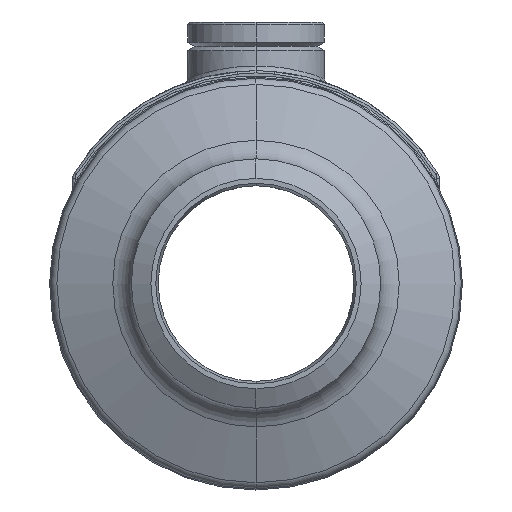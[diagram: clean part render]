
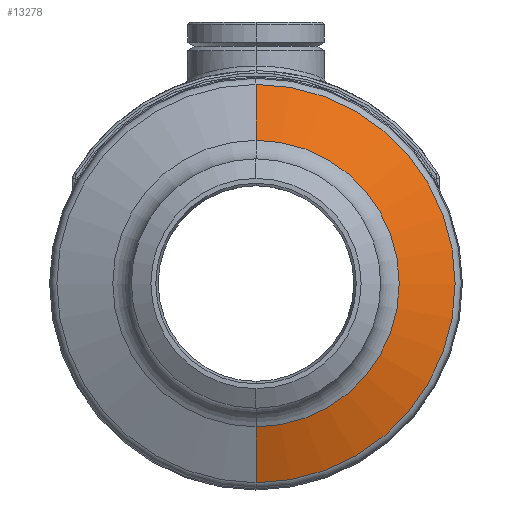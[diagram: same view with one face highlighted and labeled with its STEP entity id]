
A CAD part, left-side view. The second image highlights one B-rep face of the part: STEP entity #13278.
In plain terms, the highlighted conical face has half-angle 68.499 degrees and reference radius 35.017 mm.
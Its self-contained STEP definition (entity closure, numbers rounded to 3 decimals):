
#3808=CARTESIAN_POINT('',(-32.999,0.,0.));
#3809=DIRECTION('',(1.,0.,0.));
#3810=DIRECTION('',(0.,0.,1.));
#3811=AXIS2_PLACEMENT_3D('',#3808,#3809,#3810);
#3813=CARTESIAN_POINT('',(-37.503,0.,0.));
#3814=DIRECTION('',(-1.,0.,0.));
#3815=DIRECTION('',(0.,0.,-1.));
#3816=AXIS2_PLACEMENT_3D('',#3813,#3814,#3815);
#3823=DIRECTION('',(0.367,0.,0.93));
#3824=VECTOR('',#3823,12.287);
#3825=CARTESIAN_POINT('',(-37.503,0.,29.301));
#3826=LINE('',#3825,#3824);
#3832=DIRECTION('',(0.367,0.,-0.93));
#3833=VECTOR('',#3832,12.287);
#3834=CARTESIAN_POINT('',(-37.503,0.,-29.301));
#3835=LINE('',#3834,#3833);
#5430=CARTESIAN_POINT('',(-32.999,0.,40.733));
#5431=CARTESIAN_POINT('',(-32.999,0.,-40.733));
#5432=VERTEX_POINT('',#5430);
#5433=VERTEX_POINT('',#5431);
#5434=CARTESIAN_POINT('',(-37.503,0.,29.301));
#5435=VERTEX_POINT('',#5434);
#5436=CARTESIAN_POINT('',(-37.503,0.,-29.301));
#5437=VERTEX_POINT('',#5436);
#13264=CARTESIAN_POINT('',(-35.251,0.,0.));
#13265=DIRECTION('',(1.,0.,0.));
#13266=DIRECTION('',(0.,0.,1.));
#13267=AXIS2_PLACEMENT_3D('',#13264,#13265,#13266);
#13268=CONICAL_SURFACE('',#13267,35.017,68.499);
#13269=ORIENTED_EDGE('',*,*,#13258,.T.);
#13271=ORIENTED_EDGE('',*,*,#13270,.F.);
#13273=ORIENTED_EDGE('',*,*,#13272,.T.);
#13275=ORIENTED_EDGE('',*,*,#13274,.T.);
#13276=EDGE_LOOP('',(#13269,#13271,#13273,#13275));
#13277=FACE_OUTER_BOUND('',#13276,.F.);
#13278=ADVANCED_FACE('',(#13277),#13268,.T.);
#3812=CIRCLE('',#3811,40.733);
#3817=CIRCLE('',#3816,29.301);
#13258=EDGE_CURVE('',#5432,#5433,#3812,.T.);
#13270=EDGE_CURVE('',#5437,#5433,#3835,.T.);
#13272=EDGE_CURVE('',#5437,#5435,#3817,.T.);
#13274=EDGE_CURVE('',#5435,#5432,#3826,.T.);
